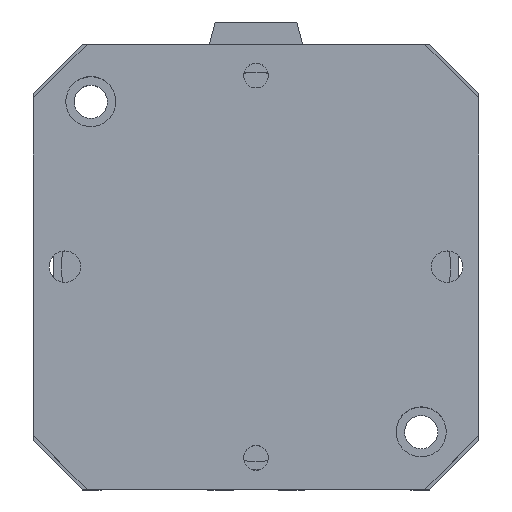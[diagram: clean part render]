
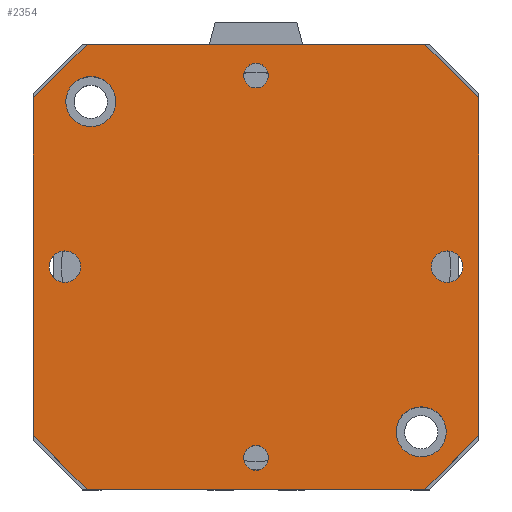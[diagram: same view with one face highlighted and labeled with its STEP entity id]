
A CAD part, top view. The second image highlights one B-rep face of the part: STEP entity #2354.
In plain terms, the highlighted planar face has unit normal (0, 0, 1).
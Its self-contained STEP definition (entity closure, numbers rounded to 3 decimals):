
#221=LINE('',#3869,#429);
#223=LINE('',#3873,#431);
#225=LINE('',#3877,#433);
#227=LINE('',#3881,#435);
#229=LINE('',#3885,#437);
#231=LINE('',#3889,#439);
#233=LINE('',#3893,#441);
#235=LINE('',#3896,#443);
#429=VECTOR('',#3196,91.);
#431=VECTOR('',#3200,20.506);
#433=VECTOR('',#3204,91.);
#435=VECTOR('',#3208,20.506);
#437=VECTOR('',#3212,91.);
#439=VECTOR('',#3216,20.506);
#441=VECTOR('',#3220,91.);
#443=VECTOR('',#3224,20.506);
#537=PLANE('',#2580);
#626=FACE_BOUND('',#956,.T.);
#627=FACE_BOUND('',#957,.T.);
#628=FACE_BOUND('',#958,.T.);
#629=FACE_BOUND('',#959,.T.);
#630=FACE_BOUND('',#960,.T.);
#631=FACE_BOUND('',#961,.T.);
#632=FACE_BOUND('',#962,.T.);
#956=EDGE_LOOP('',(#2134));
#957=EDGE_LOOP('',(#2135));
#958=EDGE_LOOP('',(#2136));
#959=EDGE_LOOP('',(#2137));
#960=EDGE_LOOP('',(#2138));
#961=EDGE_LOOP('',(#2139));
#962=EDGE_LOOP('',(#2140,#2141,#2142,#2143,#2144,#2145,#2146,#2147));
#1035=CIRCLE('',#2536,3.324);
#1037=CIRCLE('',#2539,3.324);
#1042=CIRCLE('',#2547,4.25);
#1046=CIRCLE('',#2554,4.25);
#1055=CIRCLE('',#2569,6.75);
#1056=CIRCLE('',#2571,6.75);
#1235=VERTEX_POINT('',#3787);
#1237=VERTEX_POINT('',#3792);
#1242=VERTEX_POINT('',#3805);
#1246=VERTEX_POINT('',#3816);
#1265=VERTEX_POINT('',#3860);
#1266=VERTEX_POINT('',#3863);
#1267=VERTEX_POINT('',#3866);
#1268=VERTEX_POINT('',#3868);
#1269=VERTEX_POINT('',#3872);
#1270=VERTEX_POINT('',#3876);
#1271=VERTEX_POINT('',#3880);
#1272=VERTEX_POINT('',#3884);
#1273=VERTEX_POINT('',#3888);
#1274=VERTEX_POINT('',#3892);
#1521=EDGE_CURVE('',#1235,#1235,#1035,.T.);
#1523=EDGE_CURVE('',#1237,#1237,#1037,.T.);
#1528=EDGE_CURVE('',#1242,#1242,#1042,.T.);
#1532=EDGE_CURVE('',#1246,#1246,#1046,.T.);
#1551=EDGE_CURVE('',#1265,#1265,#1055,.T.);
#1552=EDGE_CURVE('',#1266,#1266,#1056,.T.);
#1554=EDGE_CURVE('',#1268,#1267,#221,.T.);
#1556=EDGE_CURVE('',#1269,#1268,#223,.T.);
#1558=EDGE_CURVE('',#1270,#1269,#225,.T.);
#1560=EDGE_CURVE('',#1271,#1270,#227,.T.);
#1562=EDGE_CURVE('',#1272,#1271,#229,.T.);
#1564=EDGE_CURVE('',#1273,#1272,#231,.T.);
#1566=EDGE_CURVE('',#1274,#1273,#233,.T.);
#1568=EDGE_CURVE('',#1267,#1274,#235,.T.);
#2134=ORIENTED_EDGE('',*,*,#1521,.T.);
#2135=ORIENTED_EDGE('',*,*,#1523,.T.);
#2136=ORIENTED_EDGE('',*,*,#1528,.T.);
#2137=ORIENTED_EDGE('',*,*,#1532,.T.);
#2138=ORIENTED_EDGE('',*,*,#1551,.T.);
#2139=ORIENTED_EDGE('',*,*,#1552,.T.);
#2140=ORIENTED_EDGE('',*,*,#1568,.T.);
#2141=ORIENTED_EDGE('',*,*,#1566,.T.);
#2142=ORIENTED_EDGE('',*,*,#1564,.T.);
#2143=ORIENTED_EDGE('',*,*,#1562,.T.);
#2144=ORIENTED_EDGE('',*,*,#1560,.T.);
#2145=ORIENTED_EDGE('',*,*,#1558,.T.);
#2146=ORIENTED_EDGE('',*,*,#1556,.T.);
#2147=ORIENTED_EDGE('',*,*,#1554,.T.);
#2354=ADVANCED_FACE('',(#626,#627,#628,#629,#630,#631,#632),#537,.T.);
#2536=AXIS2_PLACEMENT_3D('',#3788,#3111,#3112);
#2539=AXIS2_PLACEMENT_3D('',#3793,#3117,#3118);
#2547=AXIS2_PLACEMENT_3D('',#3806,#3133,#3134);
#2554=AXIS2_PLACEMENT_3D('',#3817,#3147,#3148);
#2569=AXIS2_PLACEMENT_3D('',#3861,#3187,#3188);
#2571=AXIS2_PLACEMENT_3D('',#3864,#3191,#3192);
#2580=AXIS2_PLACEMENT_3D('',#3897,#3225,#3226);
#3111=DIRECTION('center_axis',(0.,0.,-1.));
#3112=DIRECTION('ref_axis',(1.,0.,0.));
#3117=DIRECTION('center_axis',(0.,0.,-1.));
#3118=DIRECTION('ref_axis',(1.,0.,0.));
#3133=DIRECTION('center_axis',(0.,0.,-1.));
#3134=DIRECTION('ref_axis',(1.,0.,0.));
#3147=DIRECTION('center_axis',(0.,0.,-1.));
#3148=DIRECTION('ref_axis',(1.,0.,0.));
#3187=DIRECTION('center_axis',(0.,0.,-1.));
#3188=DIRECTION('ref_axis',(-1.,0.,0.));
#3191=DIRECTION('center_axis',(0.,0.,-1.));
#3192=DIRECTION('ref_axis',(-1.,0.,0.));
#3196=DIRECTION('',(0.,1.,0.));
#3200=DIRECTION('',(0.707,0.707,0.));
#3204=DIRECTION('',(1.,0.,0.));
#3208=DIRECTION('',(0.707,-0.707,0.));
#3212=DIRECTION('',(0.,-1.,0.));
#3216=DIRECTION('',(-0.707,-0.707,0.));
#3220=DIRECTION('',(-1.,0.,0.));
#3224=DIRECTION('',(-0.707,0.707,0.));
#3225=DIRECTION('center_axis',(0.,0.,1.));
#3226=DIRECTION('ref_axis',(1.,0.,0.));
#3787=CARTESIAN_POINT('',(-54.824,0.,60.75));
#3788=CARTESIAN_POINT('Origin',(-51.5,0.,60.75));
#3792=CARTESIAN_POINT('',(48.177,0.,60.75));
#3793=CARTESIAN_POINT('Origin',(51.5,0.,60.75));
#3805=CARTESIAN_POINT('',(-4.25,51.5,60.75));
#3806=CARTESIAN_POINT('Origin',(0.,51.5,60.75));
#3816=CARTESIAN_POINT('',(-4.25,-51.5,60.75));
#3817=CARTESIAN_POINT('Origin',(0.,-51.5,60.75));
#3860=CARTESIAN_POINT('',(-37.75,-44.5,60.75));
#3861=CARTESIAN_POINT('Origin',(-44.5,-44.5,60.75));
#3863=CARTESIAN_POINT('',(51.25,44.5,60.75));
#3864=CARTESIAN_POINT('Origin',(44.5,44.5,60.75));
#3866=CARTESIAN_POINT('',(60.,45.5,60.75));
#3868=CARTESIAN_POINT('',(60.,-45.5,60.75));
#3869=CARTESIAN_POINT('',(60.,45.5,60.75));
#3872=CARTESIAN_POINT('',(45.5,-60.,60.75));
#3873=CARTESIAN_POINT('',(60.,-45.5,60.75));
#3876=CARTESIAN_POINT('',(-45.5,-60.,60.75));
#3877=CARTESIAN_POINT('',(45.5,-60.,60.75));
#3880=CARTESIAN_POINT('',(-60.,-45.5,60.75));
#3881=CARTESIAN_POINT('',(-45.5,-60.,60.75));
#3884=CARTESIAN_POINT('',(-60.,45.5,60.75));
#3885=CARTESIAN_POINT('',(-60.,-45.5,60.75));
#3888=CARTESIAN_POINT('',(-45.5,60.,60.75));
#3889=CARTESIAN_POINT('',(-60.,45.5,60.75));
#3892=CARTESIAN_POINT('',(45.5,60.,60.75));
#3893=CARTESIAN_POINT('',(-45.5,60.,60.75));
#3896=CARTESIAN_POINT('',(45.5,60.,60.75));
#3897=CARTESIAN_POINT('Origin',(0.,0.,60.75));
